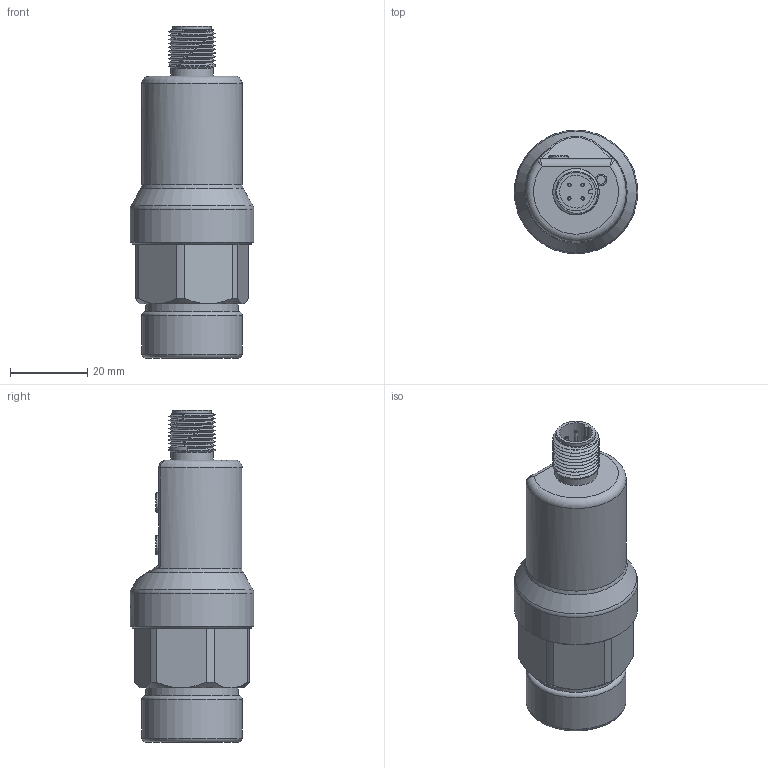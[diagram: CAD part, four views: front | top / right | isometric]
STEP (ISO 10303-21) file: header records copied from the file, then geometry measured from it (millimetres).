
FILE_DESCRIPTION( (''), '2;1');
FILE_NAME( 'PSKA_G1-4_1.step', '2025-08-21T15:40:37+08:00', (''), (''), '', '', '');
FILE_SCHEMA (('AUTOMOTIVE_DESIGN { 1 0 10303 214 3 1 1 1 }'));
Length unit declared in the file: millimetre
Products named in the file (1): PSKA G1-4_1
Bounding box: 32 x 32 x 86 mm (x, y, z)
Volume: 23504.3 mm3; surface area: 19506 mm2
Topology: 11 solids, 11 shells, 270 faces, 612 edges, 390 vertices
Faces by surface type: plane 140, cylinder 66, torus 24, cone 24, bspline 15, sphere 1
Full cylindrical faces by diameter (mm): 0.5 x2, 0.9 x8, 2 x4, 2.6 x1, 3 x1, 4 x1, 5 x2, 5.3 x2, 7 x1, 9.8 x2, 10 x1, 11 x1, 19.1 x1, 23 x2, 24 x1, 26 x4, 26.1 x1, 32 x1
Entity records: 12229 total; most frequent: CARTESIAN_POINT 6352, DIRECTION 1145, ORIENTED_EDGE 1054, EDGE_CURVE 527, AXIS2_PLACEMENT_3D 448, EDGE_LOOP 378, VERTEX_POINT 373, ADVANCED_FACE 270
